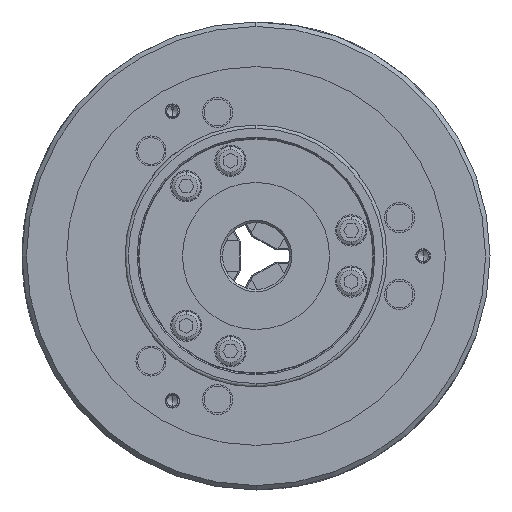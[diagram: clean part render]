
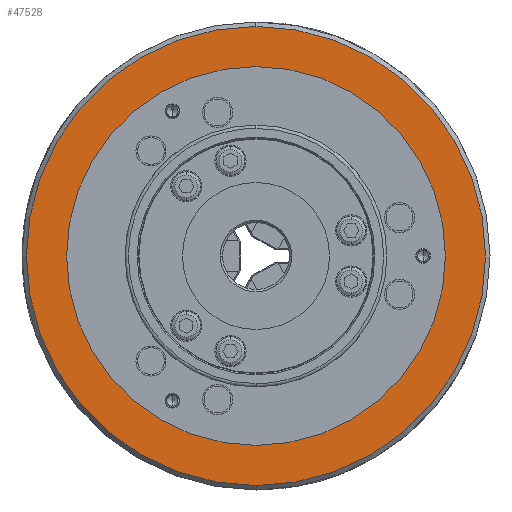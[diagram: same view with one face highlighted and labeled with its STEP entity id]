
A CAD part, left-side view. The second image highlights one B-rep face of the part: STEP entity #47528.
In plain terms, the highlighted planar face has unit normal (-1, 0, 0).
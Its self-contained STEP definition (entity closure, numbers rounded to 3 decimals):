
#2223 = FACE_OUTER_BOUND ( 'NONE', #56845, .T. ) ;
#2590 = VERTEX_POINT ( 'NONE', #44931 ) ;
#7388 = AXIS2_PLACEMENT_3D ( 'NONE', #57469, #14197, #64808 ) ;
#12036 = DIRECTION ( 'NONE',  ( 0., 0., -1. ) ) ;
#14124 = AXIS2_PLACEMENT_3D ( 'NONE', #23944, #23858, #23553 ) ;
#14197 = DIRECTION ( 'NONE',  ( -1., 0., 0. ) ) ;
#17039 = AXIS2_PLACEMENT_3D ( 'NONE', #63831, #85707, #42186 ) ;
#19271 = FACE_BOUND ( 'NONE', #71594, .T. ) ;
#19463 = CIRCLE ( 'NONE', #21572, 103. ) ;
#20224 = EDGE_CURVE ( 'NONE', #2590, #93717, #78705, .T. ) ;
#21092 = EDGE_CURVE ( 'NONE', #28026, #27668, #59135, .T. ) ;
#21572 = AXIS2_PLACEMENT_3D ( 'NONE', #25867, #76616, #33071 ) ;
#23553 = DIRECTION ( 'NONE',  ( 0., 0., -1. ) ) ;
#23660 = ORIENTED_EDGE ( 'NONE', *, *, #20224, .F. ) ;
#23858 = DIRECTION ( 'NONE',  ( -1., 0., 0. ) ) ;
#23944 = CARTESIAN_POINT ( 'NONE',  ( -91., 0., 0. ) ) ;
#24384 = ORIENTED_EDGE ( 'NONE', *, *, #21092, .F. ) ;
#24991 = CARTESIAN_POINT ( 'NONE',  ( -91., 0., 103. ) ) ;
#25867 = CARTESIAN_POINT ( 'NONE',  ( -91., 0., 0. ) ) ;
#27185 = CARTESIAN_POINT ( 'NONE',  ( -91., 0., -85. ) ) ;
#27578 = CARTESIAN_POINT ( 'NONE',  ( -91., 0., -103. ) ) ;
#27668 = VERTEX_POINT ( 'NONE', #27578 ) ;
#28026 = VERTEX_POINT ( 'NONE', #24991 ) ;
#33071 = DIRECTION ( 'NONE',  ( 0., 0., -1. ) ) ;
#40383 = CARTESIAN_POINT ( 'NONE',  ( -91., 0., 0. ) ) ;
#42186 = DIRECTION ( 'NONE',  ( 0., 0., -1. ) ) ;
#43573 = EDGE_CURVE ( 'NONE', #27668, #28026, #19463, .T. ) ;
#44931 = CARTESIAN_POINT ( 'NONE',  ( -91., 0., 85. ) ) ;
#46788 = ORIENTED_EDGE ( 'NONE', *, *, #43573, .F. ) ;
#47528 = ADVANCED_FACE ( 'NONE', ( #19271, #2223 ), #71155, .F. ) ;
#49411 = EDGE_CURVE ( 'NONE', #93717, #2590, #70733, .T. ) ;
#56845 = EDGE_LOOP ( 'NONE', ( #46788, #24384 ) ) ;
#57469 = CARTESIAN_POINT ( 'NONE',  ( -91., 0., 0. ) ) ;
#57942 = DIRECTION ( 'NONE',  ( 1., 0., 0. ) ) ;
#58272 = ORIENTED_EDGE ( 'NONE', *, *, #49411, .F. ) ;
#59135 = CIRCLE ( 'NONE', #66927, 103. ) ;
#63831 = CARTESIAN_POINT ( 'NONE',  ( -91., -85., 0. ) ) ;
#64808 = DIRECTION ( 'NONE',  ( 0., 0., -1. ) ) ;
#66927 = AXIS2_PLACEMENT_3D ( 'NONE', #40383, #57942, #12036 ) ;
#70733 = CIRCLE ( 'NONE', #7388, 85. ) ;
#71155 = PLANE ( 'NONE',  #17039 ) ;
#71594 = EDGE_LOOP ( 'NONE', ( #58272, #23660 ) ) ;
#76616 = DIRECTION ( 'NONE',  ( 1., 0., 0. ) ) ;
#78705 = CIRCLE ( 'NONE', #14124, 85. ) ;
#85707 = DIRECTION ( 'NONE',  ( 1., 0., 0. ) ) ;
#93717 = VERTEX_POINT ( 'NONE', #27185 ) ;
